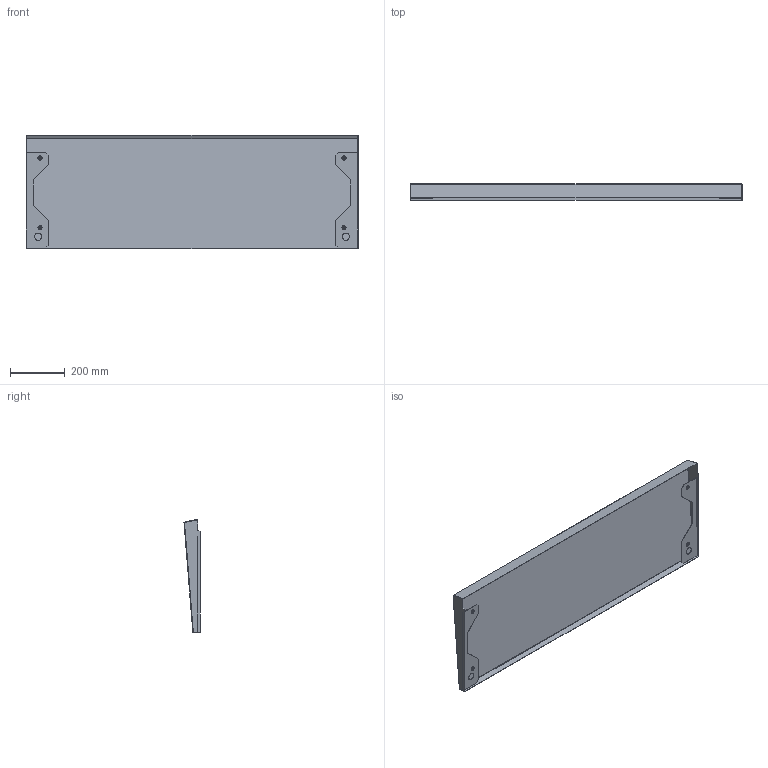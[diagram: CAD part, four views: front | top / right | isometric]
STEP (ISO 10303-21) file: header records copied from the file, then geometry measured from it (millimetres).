
FILE_DESCRIPTION (( 'STEP AP203' ), '1' );
FILE_NAME ('R 120.40 Cﾁ ﾊ鰀靍裲 鈞隆.STEP', '2012-11-21T04:28:35', ( 'system' ), ( '' ), 'SwSTEP 2.0', 'SolidWorks 2012', '' );
FILE_SCHEMA (( 'CONFIG_CONTROL_DESIGN' ));
Length unit declared in the file: millimetre
Products named in the file (1): R 120.40 Cﾁ ﾊ鰀靍裲 鈞隆
Bounding box: 1210 x 58.63 x 413.35 mm (x, y, z)
Volume: 912380.4 mm3; surface area: 1309108.5 mm2
Topology: 5 solids, 5 shells, 152 faces, 354 edges, 224 vertices
Faces by surface type: cylinder 62, plane 58, torus 16, cone 8, sphere 8
Entity records: 4419 total; most frequent: DIRECTION 824, CARTESIAN_POINT 731, ORIENTED_EDGE 692, EDGE_CURVE 346, AXIS2_PLACEMENT_3D 329, VERTEX_POINT 220, EDGE_LOOP 188, CIRCLE 176
